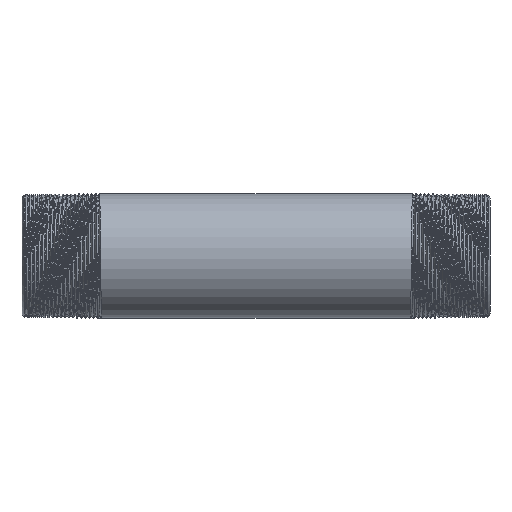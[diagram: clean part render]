
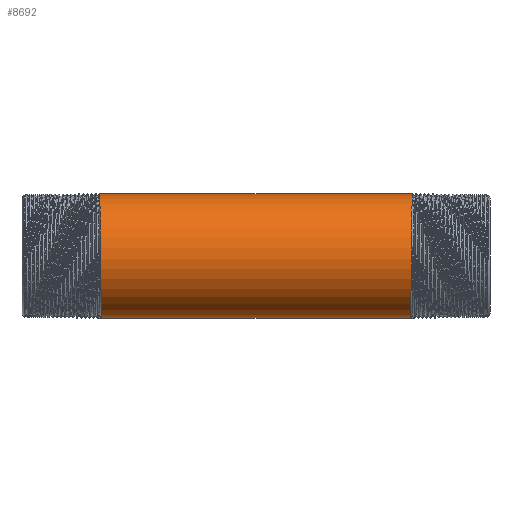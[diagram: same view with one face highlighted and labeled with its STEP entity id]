
A CAD part, front view. The second image highlights one B-rep face of the part: STEP entity #8692.
In plain terms, the highlighted cylindrical face has radius 10.65 mm (diameter 21.3 mm), a partial arc.
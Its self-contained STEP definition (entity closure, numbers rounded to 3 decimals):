
#95 = CARTESIAN_POINT ( 'NONE',  ( -149.494, 0., -10.65 ) ) ;
#432 =( BOUNDED_CURVE ( )  B_SPLINE_CURVE ( 2, ( #13656, #12576, #6028, #13873, #6245, #4016, #11493 ),
 .UNSPECIFIED., .F., .F. ) 
 B_SPLINE_CURVE_WITH_KNOTS ( ( 3, 2, 2, 3 ),
 ( 0., 0.006, 0.013, 0.019 ),
 .UNSPECIFIED. ) 
 CURVE ( )  GEOMETRIC_REPRESENTATION_ITEM ( )  RATIONAL_B_SPLINE_CURVE ( ( 1., 0.866, 1., 0.866, 1., 0.866, 1. ) ) 
 REPRESENTATION_ITEM ( '' )  );
#460 = AXIS2_PLACEMENT_3D ( 'NONE', #13292, #7759, #14166 ) ;
#849 = EDGE_CURVE ( 'NONE', #5412, #9179, #1633, .T. ) ;
#966 = VERTEX_POINT ( 'NONE', #12037 ) ;
#1105 = LINE ( 'NONE', #95, #3825 ) ;
#1633 = LINE ( 'NONE', #2841, #8474 ) ;
#2394 = EDGE_CURVE ( 'NONE', #966, #14074, #1105, .T. ) ;
#2415 = CARTESIAN_POINT ( 'NONE',  ( -26.738, 0., 10.65 ) ) ;
#2768 = DIRECTION ( 'NONE',  ( -1., 0., 0. ) ) ;
#2841 = CARTESIAN_POINT ( 'NONE',  ( -149.494, 0., 10.65 ) ) ;
#3160 = CYLINDRICAL_SURFACE ( 'NONE', #460, 10.65 ) ;
#3584 = CARTESIAN_POINT ( 'NONE',  ( -26.621, -9.223, 5.325 ) ) ;
#3655 = CARTESIAN_POINT ( 'NONE',  ( -26.446, -6.149, -10.65 ) ) ;
#3825 = VECTOR ( 'NONE', #9945, 1000. ) ;
#4016 = CARTESIAN_POINT ( 'NONE',  ( 26.679, -6.149, 10.65 ) ) ;
#4294 = EDGE_CURVE ( 'NONE', #14074, #9179, #6311, .T. ) ;
#4764 = ORIENTED_EDGE ( 'NONE', *, *, #4294, .F. ) ;
#5412 = VERTEX_POINT ( 'NONE', #10367 ) ;
#5831 = ORIENTED_EDGE ( 'NONE', *, *, #11774, .T. ) ;
#5884 = CARTESIAN_POINT ( 'NONE',  ( -26.388, 0., -10.65 ) ) ;
#6028 = CARTESIAN_POINT ( 'NONE',  ( 26.504, -9.223, -5.325 ) ) ;
#6245 = CARTESIAN_POINT ( 'NONE',  ( 26.621, -9.223, 5.325 ) ) ;
#6311 =( BOUNDED_CURVE ( )  B_SPLINE_CURVE ( 2, ( #5884, #3655, #6677, #10202, #3584, #11133, #11348 ),
 .UNSPECIFIED., .F., .F. ) 
 B_SPLINE_CURVE_WITH_KNOTS ( ( 3, 2, 2, 3 ),
 ( 0., 0.006, 0.013, 0.019 ),
 .UNSPECIFIED. ) 
 CURVE ( )  GEOMETRIC_REPRESENTATION_ITEM ( )  RATIONAL_B_SPLINE_CURVE ( ( 1., 0.866, 1., 0.866, 1., 0.866, 1. ) ) 
 REPRESENTATION_ITEM ( '' )  );
#6589 = CARTESIAN_POINT ( 'NONE',  ( -26.388, 0., -10.65 ) ) ;
#6677 = CARTESIAN_POINT ( 'NONE',  ( -26.504, -9.223, -5.325 ) ) ;
#6694 = ORIENTED_EDGE ( 'NONE', *, *, #2394, .F. ) ;
#7759 = DIRECTION ( 'NONE',  ( -1., 0., 0. ) ) ;
#7879 = ORIENTED_EDGE ( 'NONE', *, *, #849, .T. ) ;
#8474 = VECTOR ( 'NONE', #2768, 1000. ) ;
#8692 = ADVANCED_FACE ( 'NONE', ( #13075 ), #3160, .T. ) ;
#9179 = VERTEX_POINT ( 'NONE', #2415 ) ;
#9250 = EDGE_LOOP ( 'NONE', ( #6694, #5831, #7879, #4764 ) ) ;
#9945 = DIRECTION ( 'NONE',  ( -1., 0., 0. ) ) ;
#10202 = CARTESIAN_POINT ( 'NONE',  ( -26.563, -12.298, 0. ) ) ;
#10367 = CARTESIAN_POINT ( 'NONE',  ( 26.738, 0., 10.65 ) ) ;
#11133 = CARTESIAN_POINT ( 'NONE',  ( -26.679, -6.149, 10.65 ) ) ;
#11348 = CARTESIAN_POINT ( 'NONE',  ( -26.738, 0., 10.65 ) ) ;
#11493 = CARTESIAN_POINT ( 'NONE',  ( 26.738, 0., 10.65 ) ) ;
#11774 = EDGE_CURVE ( 'NONE', #966, #5412, #432, .T. ) ;
#12037 = CARTESIAN_POINT ( 'NONE',  ( 26.388, 0., -10.65 ) ) ;
#12576 = CARTESIAN_POINT ( 'NONE',  ( 26.446, -6.149, -10.65 ) ) ;
#13075 = FACE_OUTER_BOUND ( 'NONE', #9250, .T. ) ;
#13292 = CARTESIAN_POINT ( 'NONE',  ( -149.494, 0., 0. ) ) ;
#13656 = CARTESIAN_POINT ( 'NONE',  ( 26.388, 0., -10.65 ) ) ;
#13873 = CARTESIAN_POINT ( 'NONE',  ( 26.563, -12.298, 0. ) ) ;
#14074 = VERTEX_POINT ( 'NONE', #6589 ) ;
#14166 = DIRECTION ( 'NONE',  ( 0., 0., 1. ) ) ;
